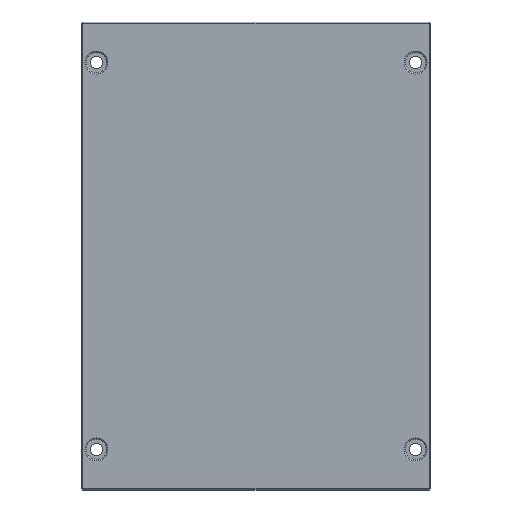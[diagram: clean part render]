
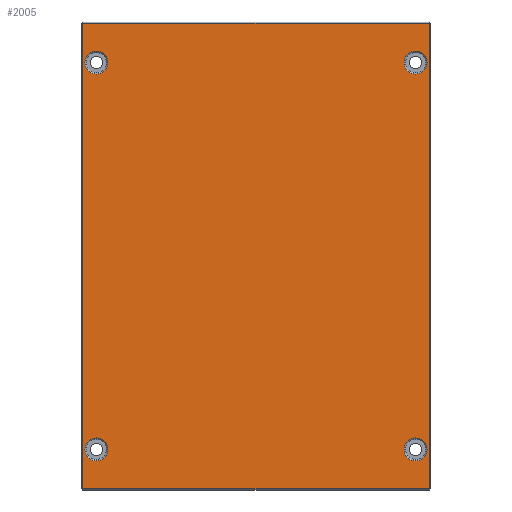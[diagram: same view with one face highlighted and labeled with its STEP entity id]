
A CAD part, front view. The second image highlights one B-rep face of the part: STEP entity #2005.
In plain terms, the highlighted planar face has unit normal (0, -1, 0).
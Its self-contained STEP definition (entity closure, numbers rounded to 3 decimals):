
#13 = VERTEX_POINT ( 'NONE', #2472 ) ;
#19 = DIRECTION ( 'NONE',  ( 0., 1., 0. ) ) ;
#31 = VERTEX_POINT ( 'NONE', #251 ) ;
#58 = DIRECTION ( 'NONE',  ( 1., 0., 0. ) ) ;
#61 = FACE_BOUND ( 'NONE', #2370, .T. ) ;
#65 = DIRECTION ( 'NONE',  ( 0., 1., 0. ) ) ;
#81 = EDGE_CURVE ( 'NONE', #13, #455, #2120, .T. ) ;
#87 = DIRECTION ( 'NONE',  ( 0., 1., 0. ) ) ;
#88 = CARTESIAN_POINT ( 'NONE',  ( 118., 0., -134.5 ) ) ;
#147 = CARTESIAN_POINT ( 'NONE',  ( -118., 0., 143. ) ) ;
#154 = CARTESIAN_POINT ( 'NONE',  ( 0., 0., 0. ) ) ;
#162 = PLANE ( 'NONE',  #568 ) ;
#174 = CARTESIAN_POINT ( 'NONE',  ( -128., 0., 0. ) ) ;
#179 = CARTESIAN_POINT ( 'NONE',  ( 0., 0., -172. ) ) ;
#199 = VERTEX_POINT ( 'NONE', #2411 ) ;
#201 = EDGE_LOOP ( 'NONE', ( #1711, #2426 ) ) ;
#251 = CARTESIAN_POINT ( 'NONE',  ( -128., 0., -172. ) ) ;
#258 = DIRECTION ( 'NONE',  ( 0., 0., 1. ) ) ;
#338 = ORIENTED_EDGE ( 'NONE', *, *, #1475, .T. ) ;
#344 = VECTOR ( 'NONE', #584, 1000. ) ;
#392 = AXIS2_PLACEMENT_3D ( 'NONE', #1294, #1353, #1358 ) ;
#436 = VERTEX_POINT ( 'NONE', #2011 ) ;
#444 = AXIS2_PLACEMENT_3D ( 'NONE', #1036, #2089, #2180 ) ;
#448 = CIRCLE ( 'NONE', #392, 8.5 ) ;
#455 = VERTEX_POINT ( 'NONE', #766 ) ;
#546 = VERTEX_POINT ( 'NONE', #1177 ) ;
#553 = CIRCLE ( 'NONE', #687, 8.5 ) ;
#563 = VERTEX_POINT ( 'NONE', #1630 ) ;
#567 = FACE_BOUND ( 'NONE', #1806, .T. ) ;
#568 = AXIS2_PLACEMENT_3D ( 'NONE', #154, #87, #258 ) ;
#573 = AXIS2_PLACEMENT_3D ( 'NONE', #1885, #828, #1919 ) ;
#584 = DIRECTION ( 'NONE',  ( 0., 0., 1. ) ) ;
#630 = LINE ( 'NONE', #179, #1515 ) ;
#687 = AXIS2_PLACEMENT_3D ( 'NONE', #147, #19, #1790 ) ;
#745 = ORIENTED_EDGE ( 'NONE', *, *, #849, .T. ) ;
#766 = CARTESIAN_POINT ( 'NONE',  ( 118., 0., 134.5 ) ) ;
#783 = VERTEX_POINT ( 'NONE', #1089 ) ;
#789 = CARTESIAN_POINT ( 'NONE',  ( 128., 0., -172. ) ) ;
#828 = DIRECTION ( 'NONE',  ( 0., 1., 0. ) ) ;
#849 = EDGE_CURVE ( 'NONE', #2242, #546, #912, .T. ) ;
#853 = CIRCLE ( 'NONE', #573, 8.5 ) ;
#857 = EDGE_CURVE ( 'NONE', #455, #13, #853, .T. ) ;
#888 = EDGE_CURVE ( 'NONE', #436, #563, #1295, .T. ) ;
#912 = LINE ( 'NONE', #2203, #344 ) ;
#930 = CARTESIAN_POINT ( 'NONE',  ( -118., 0., -143. ) ) ;
#937 = DIRECTION ( 'NONE',  ( 0., 1., 0. ) ) ;
#949 = DIRECTION ( 'NONE',  ( 0., 0., 1. ) ) ;
#1016 = FACE_BOUND ( 'NONE', #201, .T. ) ;
#1036 = CARTESIAN_POINT ( 'NONE',  ( -118., 0., 143. ) ) ;
#1070 = FACE_OUTER_BOUND ( 'NONE', #2236, .T. ) ;
#1089 = CARTESIAN_POINT ( 'NONE',  ( -128., 0., 172. ) ) ;
#1150 = CIRCLE ( 'NONE', #2023, 8.5 ) ;
#1162 = CIRCLE ( 'NONE', #1824, 8.5 ) ;
#1177 = CARTESIAN_POINT ( 'NONE',  ( 128., 0., 172. ) ) ;
#1200 = LINE ( 'NONE', #2409, #2190 ) ;
#1240 = LINE ( 'NONE', #174, #1820 ) ;
#1294 = CARTESIAN_POINT ( 'NONE',  ( 118., 0., -143. ) ) ;
#1295 = CIRCLE ( 'NONE', #444, 8.5 ) ;
#1353 = DIRECTION ( 'NONE',  ( 0., 1., 0. ) ) ;
#1358 = DIRECTION ( 'NONE',  ( 0., 0., 1. ) ) ;
#1434 = VERTEX_POINT ( 'NONE', #88 ) ;
#1475 = EDGE_CURVE ( 'NONE', #546, #783, #1200, .T. ) ;
#1512 = FACE_BOUND ( 'NONE', #2558, .T. ) ;
#1514 = DIRECTION ( 'NONE',  ( 0., 1., 0. ) ) ;
#1515 = VECTOR ( 'NONE', #58, 1000. ) ;
#1576 = EDGE_CURVE ( 'NONE', #31, #2242, #630, .T. ) ;
#1588 = DIRECTION ( 'NONE',  ( 0., 0., 1. ) ) ;
#1591 = ORIENTED_EDGE ( 'NONE', *, *, #1576, .T. ) ;
#1601 = DIRECTION ( 'NONE',  ( 0., 0., 1. ) ) ;
#1630 = CARTESIAN_POINT ( 'NONE',  ( -118., 0., 134.5 ) ) ;
#1690 = CARTESIAN_POINT ( 'NONE',  ( 118., 0., 143. ) ) ;
#1711 = ORIENTED_EDGE ( 'NONE', *, *, #2239, .T. ) ;
#1785 = EDGE_CURVE ( 'NONE', #2327, #199, #1162, .T. ) ;
#1790 = DIRECTION ( 'NONE',  ( 0., 0., 1. ) ) ;
#1806 = EDGE_LOOP ( 'NONE', ( #1956, #1808 ) ) ;
#1808 = ORIENTED_EDGE ( 'NONE', *, *, #81, .T. ) ;
#1820 = VECTOR ( 'NONE', #2478, 1000. ) ;
#1824 = AXIS2_PLACEMENT_3D ( 'NONE', #930, #937, #949 ) ;
#1847 = CIRCLE ( 'NONE', #2061, 8.5 ) ;
#1878 = CARTESIAN_POINT ( 'NONE',  ( -118., 0., -143. ) ) ;
#1885 = CARTESIAN_POINT ( 'NONE',  ( 118., 0., 143. ) ) ;
#1897 = DIRECTION ( 'NONE',  ( -1., 0., 0. ) ) ;
#1905 = CARTESIAN_POINT ( 'NONE',  ( 118., 0., -151.5 ) ) ;
#1917 = DIRECTION ( 'NONE',  ( 0., 1., 0. ) ) ;
#1919 = DIRECTION ( 'NONE',  ( 0., 0., 1. ) ) ;
#1956 = ORIENTED_EDGE ( 'NONE', *, *, #857, .T. ) ;
#1990 = ORIENTED_EDGE ( 'NONE', *, *, #2112, .T. ) ;
#2005 = ADVANCED_FACE ( 'NONE', ( #1070, #1016, #61, #1512, #567 ), #162, .F. ) ;
#2011 = CARTESIAN_POINT ( 'NONE',  ( -118., 0., 151.5 ) ) ;
#2023 = AXIS2_PLACEMENT_3D ( 'NONE', #1878, #1514, #1601 ) ;
#2030 = EDGE_CURVE ( 'NONE', #2054, #1434, #448, .T. ) ;
#2054 = VERTEX_POINT ( 'NONE', #1905 ) ;
#2061 = AXIS2_PLACEMENT_3D ( 'NONE', #2075, #65, #2067 ) ;
#2067 = DIRECTION ( 'NONE',  ( 0., 0., 1. ) ) ;
#2075 = CARTESIAN_POINT ( 'NONE',  ( 118., 0., -143. ) ) ;
#2089 = DIRECTION ( 'NONE',  ( 0., 1., 0. ) ) ;
#2112 = EDGE_CURVE ( 'NONE', #199, #2327, #1150, .T. ) ;
#2119 = ORIENTED_EDGE ( 'NONE', *, *, #1785, .T. ) ;
#2120 = CIRCLE ( 'NONE', #2175, 8.5 ) ;
#2131 = CARTESIAN_POINT ( 'NONE',  ( -118., 0., -151.5 ) ) ;
#2175 = AXIS2_PLACEMENT_3D ( 'NONE', #1690, #1917, #1588 ) ;
#2180 = DIRECTION ( 'NONE',  ( 0., 0., 1. ) ) ;
#2190 = VECTOR ( 'NONE', #1897, 1000. ) ;
#2203 = CARTESIAN_POINT ( 'NONE',  ( 128., 0., 0. ) ) ;
#2236 = EDGE_LOOP ( 'NONE', ( #745, #338, #2514, #1591 ) ) ;
#2239 = EDGE_CURVE ( 'NONE', #563, #436, #553, .T. ) ;
#2242 = VERTEX_POINT ( 'NONE', #789 ) ;
#2311 = ORIENTED_EDGE ( 'NONE', *, *, #2314, .T. ) ;
#2314 = EDGE_CURVE ( 'NONE', #1434, #2054, #1847, .T. ) ;
#2327 = VERTEX_POINT ( 'NONE', #2131 ) ;
#2370 = EDGE_LOOP ( 'NONE', ( #2387, #2311 ) ) ;
#2387 = ORIENTED_EDGE ( 'NONE', *, *, #2030, .T. ) ;
#2409 = CARTESIAN_POINT ( 'NONE',  ( 0., 0., 172. ) ) ;
#2411 = CARTESIAN_POINT ( 'NONE',  ( -118., 0., -134.5 ) ) ;
#2426 = ORIENTED_EDGE ( 'NONE', *, *, #888, .T. ) ;
#2472 = CARTESIAN_POINT ( 'NONE',  ( 118., 0., 151.5 ) ) ;
#2478 = DIRECTION ( 'NONE',  ( 0., 0., -1. ) ) ;
#2514 = ORIENTED_EDGE ( 'NONE', *, *, #2564, .T. ) ;
#2558 = EDGE_LOOP ( 'NONE', ( #2119, #1990 ) ) ;
#2564 = EDGE_CURVE ( 'NONE', #783, #31, #1240, .T. ) ;
